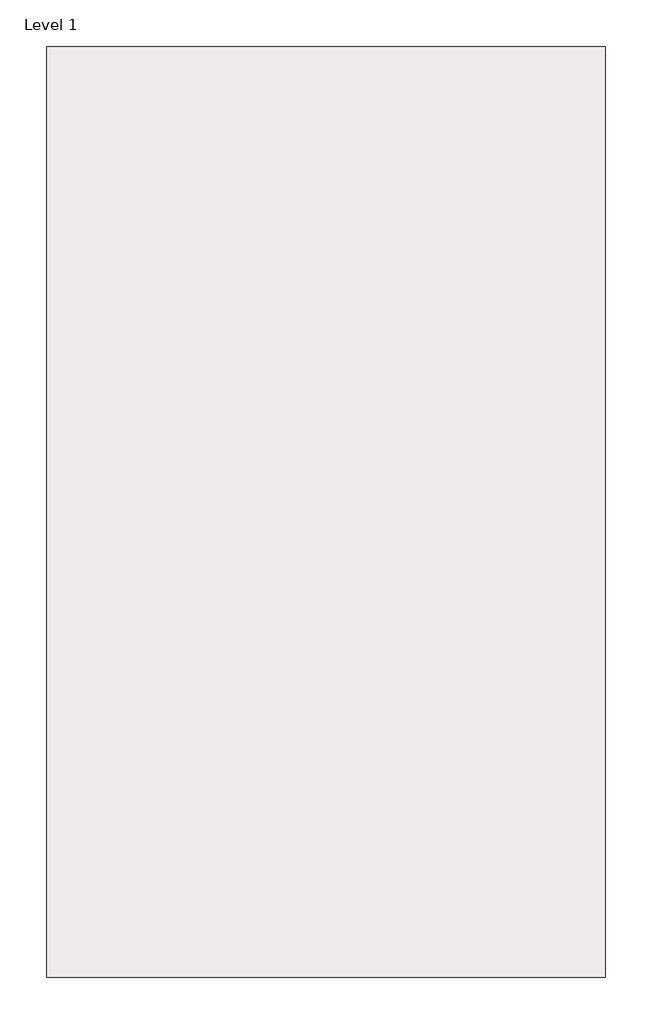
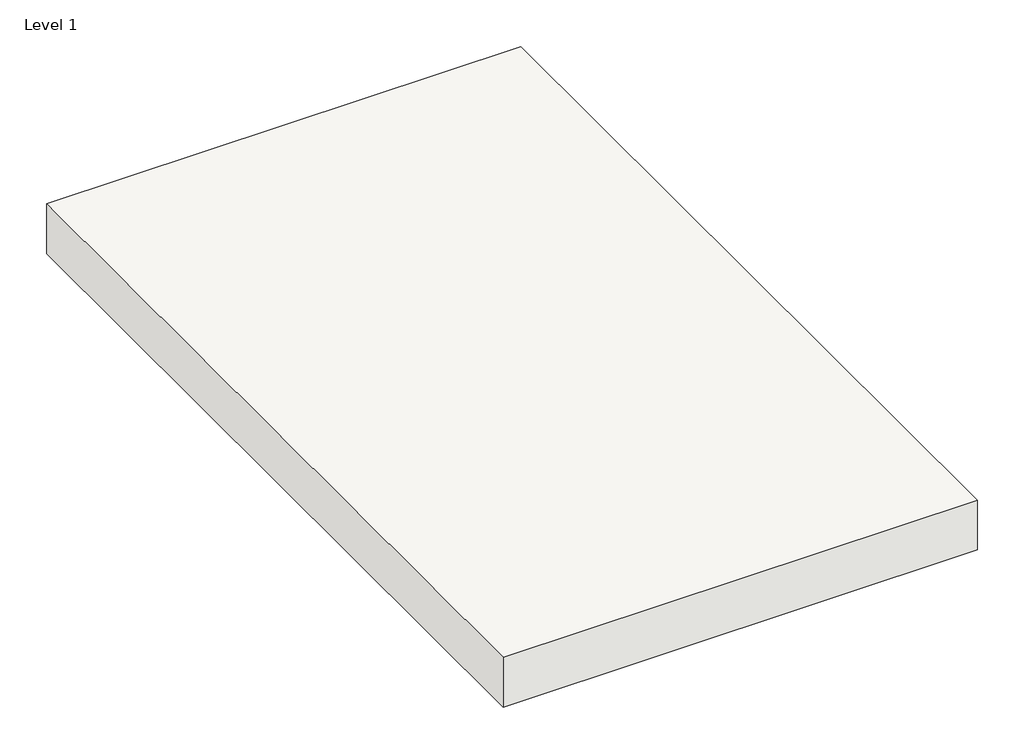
# One storey: 1 slab.
"""IFC4 building model written with IfcOpenShell, lengths in millimetres."""

import ifcopenshell
import ifcopenshell.guid

model = None  # the IFC model being written
_history = None  # IfcOwnerHistory: only IFC2X3 demands one
_inside = {}  # id of a spatial element -> (the spatial element, [elements in it])
_under = {}  # id of a project, library or spatial element -> (it, [spatial elements below it])
_declared = {}  # id of a project -> (the project, [libraries it declares])
_typed = {}  # id of a type object -> (the type object, [elements of that type])
_made_of = {}  # id of a material, layer set ... -> (it, [elements and type objects made of it])


def new_model(schema):
    """Start an empty IFC model of exactly this schema.

    Asked for "IFC4X3", IfcOpenShell would pick the latest addendum, in which some entities
    have other attributes; the version numbers below select the first issue.
    IFC2X3 requires an IfcOwnerHistory on every rooted entity: one is made here for all.
    """
    global model, _history
    if schema == "IFC4X3":
        model = ifcopenshell.file(schema_version=(4, 3, 0, 0))
    else:
        model = ifcopenshell.file(schema=schema)
    _inside.clear()
    _under.clear()
    _declared.clear()
    _typed.clear()
    _made_of.clear()
    _history = None
    if model.schema == "IFC2X3":
        org = make("IfcOrganization", Name="unknown")
        user = make(
            "IfcPersonAndOrganization",
            ThePerson=make("IfcPerson", FamilyName="unknown"),
            TheOrganization=org,
        )
        app = make(
            "IfcApplication",
            ApplicationDeveloper=org,
            Version="unknown",
            ApplicationFullName="unknown",
            ApplicationIdentifier="unknown",
        )
        _history = make(
            "IfcOwnerHistory",
            OwningUser=user,
            OwningApplication=app,
            ChangeAction="ADDED",
            CreationDate=0,
        )
    return model


def make(cls, **values):
    """One entity of the class cls with the attributes given. An attribute that is None is left unset."""
    return model.create_entity(
        cls, **{name: value for name, value in values.items() if value is not None}
    )


def rooted(cls, **values):
    """An entity with a GlobalId (a new one), such as an element, a storey or a relation."""
    return make(cls, GlobalId=ifcopenshell.guid.new(), OwnerHistory=_history, **values)


def si_unit(unit_type, name, prefix=None):
    """IfcSIUnit, for example si_unit("LENGTHUNIT", "METRE", prefix="MILLI")."""
    return make("IfcSIUnit", UnitType=unit_type, Prefix=prefix, Name=name)


def assignment(units):
    """IfcUnitAssignment: the units of a project."""
    return None if units is None else make("IfcUnitAssignment", Units=units)


def point(xyz):
    """IfcCartesianPoint."""
    return None if xyz is None else make("IfcCartesianPoint", Coordinates=xyz)


def direction(xyz):
    """IfcDirection."""
    return None if xyz is None else make("IfcDirection", DirectionRatios=xyz)


def frame(location, z_axis=None, x_axis=None):
    """IfcAxis2Placement3D, a coordinate frame: its origin and axes. An axis left out is left unset."""
    return make(
        "IfcAxis2Placement3D",
        Location=point(location),
        Axis=direction(z_axis),
        RefDirection=direction(x_axis),
    )


def origin():
    """The frame at (0, 0, 0) with its axes left unset."""
    return frame((0.0, 0.0, 0.0))


def place(relative_to, where):
    """IfcLocalPlacement: puts the frame where relative to a parent placement (None: the world)."""
    return make(
        "IfcLocalPlacement", PlacementRelTo=relative_to, RelativePlacement=where
    )


def context(
    kind, dimensions, precision=None, world=None, true_north=None, identifier=None
):
    """IfcGeometricRepresentationContext, for example the 3D "Model" context."""
    return make(
        "IfcGeometricRepresentationContext",
        ContextIdentifier=identifier,
        ContextType=kind,
        CoordinateSpaceDimension=dimensions,
        Precision=precision,
        WorldCoordinateSystem=world,
        TrueNorth=true_north,
    )


def project(units=None, contexts=None):
    """IfcProject with its units and contexts."""
    return rooted(
        "IfcProject",
        Name="project",
        RepresentationContexts=contexts,
        UnitsInContext=assignment(units),
    )


def spatial(cls, under=None, at=None, **own):
    """A site, building, storey or space (cls), placed at a placement, below another one or the project."""
    s = rooted(cls, ObjectPlacement=at, **own)
    if under is not None:
        _under.setdefault(under.id(), (under, []))[1].append(s)
    return s


def polyline(points):
    """IfcPolyline through the points."""
    return make("IfcPolyline", Points=[point(p) for p in points])


def outline(outer, holes=None, kind="AREA"):
    """IfcArbitraryClosedProfileDef: a profile drawn as a closed curve; with holes, ...WithVoids."""
    if holes is None:
        return make("IfcArbitraryClosedProfileDef", ProfileType=kind, OuterCurve=outer)
    return make(
        "IfcArbitraryProfileDefWithVoids",
        ProfileType=kind,
        OuterCurve=outer,
        InnerCurves=holes,
    )


def extrude(swept, where, along, depth):
    """IfcExtrudedAreaSolid: the profile swept, set in the frame where, extruded along a direction by depth."""
    return make(
        "IfcExtrudedAreaSolid",
        SweptArea=swept,
        Position=where,
        ExtrudedDirection=direction(along),
        Depth=depth,
    )


def shape(context_of_items, identifier, shape_type, items):
    """IfcShapeRepresentation: the items that make up one representation, for example the "Body"."""
    return make(
        "IfcShapeRepresentation",
        ContextOfItems=context_of_items,
        RepresentationIdentifier=identifier,
        RepresentationType=shape_type,
        Items=items,
    )


def made_of(thing, what):
    """Note that an element or type object is made of a material, layer set ...; save() writes the relation."""
    if what is not None:
        _made_of.setdefault(what.id(), (what, []))[1].append(thing)
    return thing


def element(
    cls,
    number,
    at=None,
    inside=None,
    cuts=None,
    type_object=None,
    material=None,
    context=None,
    identifier="Body",
    shape_type=None,
    held_by="IfcProductDefinitionShape",
    body=None,
    shapes=None,
    **own,
):
    """One element of the class cls, such as IfcWall. Its Tag is "e" and its number.

    at: its placement. inside: the storey or other place that contains it. cuts: it is an
    opening in that element (IfcRelVoidsElement). A single representation is given by context,
    identifier, shape_type and body (its items); several are given by shapes. held_by: the class
    of the entity that holds the representations. save() writes the other relations.
    """
    e = rooted(cls, Tag="e%d" % number, ObjectPlacement=at, **own)
    if body is not None:
        shapes = [shape(context, identifier, shape_type, body)]
    if shapes is not None:
        e.Representation = make(held_by, Representations=shapes)
    if inside is not None:
        _inside.setdefault(inside.id(), (inside, []))[1].append(e)
    if cuts is not None:
        rooted(
            "IfcRelVoidsElement", RelatingBuildingElement=cuts, RelatedOpeningElement=e
        )
    if type_object is not None:
        _typed.setdefault(type_object.id(), (type_object, []))[1].append(e)
    return made_of(e, material)


def aggregate(whole, parts):
    """IfcRelAggregates: a whole, such as a stair, and the parts it consists of."""
    return rooted("IfcRelAggregates", RelatingObject=whole, RelatedObjects=parts)


def save(model, path):
    """Write the relations noted so far, then the file.

    IfcRelAggregates (storeys below a building ...), IfcRelContainedInSpatialStructure (elements
    in a storey), IfcRelDefinesByType, IfcRelAssociatesMaterial and IfcRelDeclares: one each for
    every whole, place, type object, material and project.
    """
    for whole, parts in _under.values():
        aggregate(whole, parts)
    for where, things in _inside.values():
        rooted(
            "IfcRelContainedInSpatialStructure",
            RelatedElements=things,
            RelatingStructure=where,
        )
    for kind, things in _typed.values():
        rooted("IfcRelDefinesByType", RelatedObjects=things, RelatingType=kind)
    for what, things in _made_of.values():
        rooted("IfcRelAssociatesMaterial", RelatedObjects=things, RelatingMaterial=what)
    for by, libraries in _declared.values():
        rooted("IfcRelDeclares", RelatingContext=by, RelatedDefinitions=libraries)
    model.write(path)


model = new_model("IFC4")

# Units and contexts
model_context = context("Model", 3, world=origin())
ifc_project = project(units=[si_unit("LENGTHUNIT", "METRE", prefix="MILLI")], contexts=[model_context])

# Site, building, storey
site = spatial("IfcSite", under=ifc_project)
building = spatial("IfcBuilding", under=site)
storey = spatial("IfcBuildingStorey", under=building, Name="Level 1", Elevation=0.0)

# Slab
placement = place(None, origin())
element("IfcSlab", 1, ObjectType="ED600A", at=placement, inside=storey, context=model_context, shape_type="SweptSolid", body=[
    extrude(outline(polyline([(2747.4282268, 3623.6822678), (2747.4282268, 575.6822678), (918.6282268, 575.6822678), (918.6282268, 3623.6822678), (2747.4282268, 3623.6822678)])), frame((0.0, 0.0, -203.2), z_axis=(0.0, 0.0, 1.0), x_axis=(1.0, 0.0, 0.0)), (0.0, 0.0, 1.0), 203.2),
])

save(model, "model.ifc")
